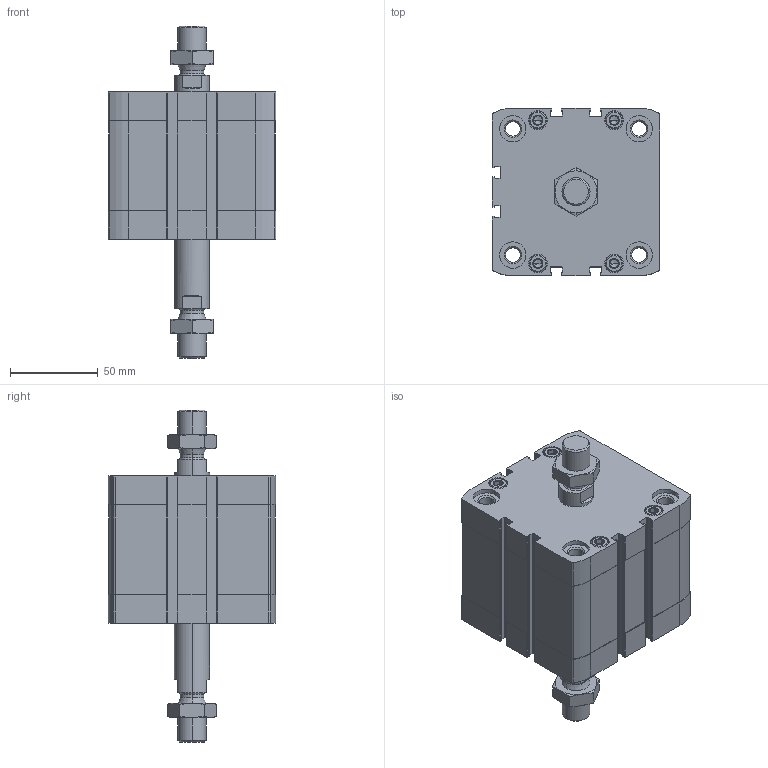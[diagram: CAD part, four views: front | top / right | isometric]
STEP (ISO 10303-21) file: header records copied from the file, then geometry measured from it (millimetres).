
FILE_DESCRIPTION (( 'STEP AP203' ), '1' );
FILE_NAME ('CCN80-30-P.STEP', '2020-06-22T19:06:23', ( '' ), ( '' ), 'SwSTEP 2.0', 'SolidWorks 2019', '' );
FILE_SCHEMA (( 'CONFIG_CONTROL_DESIGN' ));
Length unit declared in the file: millimetre
Products named in the file (1): CCN80-30-P
Bounding box: 95.5 x 95.5 x 189.2 mm (x, y, z)
Volume: 605845.7 mm3; surface area: 119954.7 mm2
Topology: 4 solids, 4 shells, 544 faces, 1352 edges, 848 vertices
Faces by surface type: plane 248, cylinder 196, cone 92, torus 8
Entity records: 17807 total; most frequent: CARTESIAN_POINT 4577, DIRECTION 2866, ORIENTED_EDGE 2672, EDGE_CURVE 1336, AXIS2_PLACEMENT_3D 1077, VERTEX_POINT 848, VECTOR 712, LINE 712
